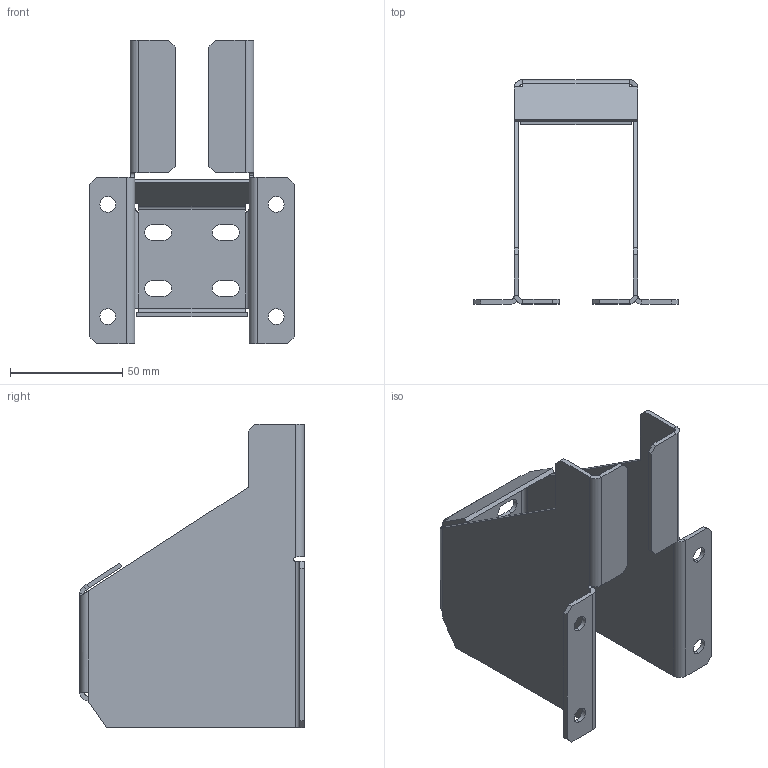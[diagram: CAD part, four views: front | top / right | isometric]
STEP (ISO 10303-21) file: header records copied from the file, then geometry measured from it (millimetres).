
FILE_DESCRIPTION (( 'STEP AP214' ), '1' );
FILE_NAME ('B 6 GB Êîíñîëü îïîðíàÿ.STEP', '2020-10-14T12:59:42', ( '' ), ( '' ), 'SwSTEP 2.0', 'SolidWorks 2018', '' );
FILE_SCHEMA (( 'AUTOMOTIVE_DESIGN' ));
Length unit declared in the file: millimetre
Products named in the file (1): B 6 GB Êîíñîëü îïîðíàÿ
Bounding box: 91 x 100 x 135 mm (x, y, z)
Volume: 54417.9 mm3; surface area: 57075.9 mm2
Topology: 1 solids, 1 shells, 126 faces, 310 edges, 186 vertices
Faces by surface type: plane 89, cylinder 35, bspline 2
Entity records: 3736 total; most frequent: CARTESIAN_POINT 689, DIRECTION 622, ORIENTED_EDGE 620, EDGE_CURVE 310, LINE 240, VECTOR 240, AXIS2_PLACEMENT_3D 191, VERTEX_POINT 186
